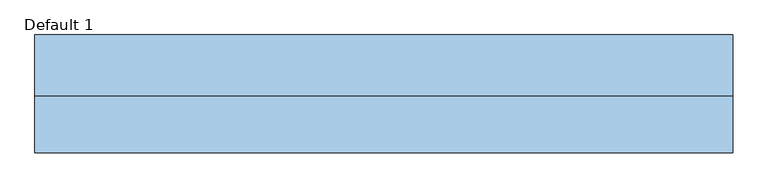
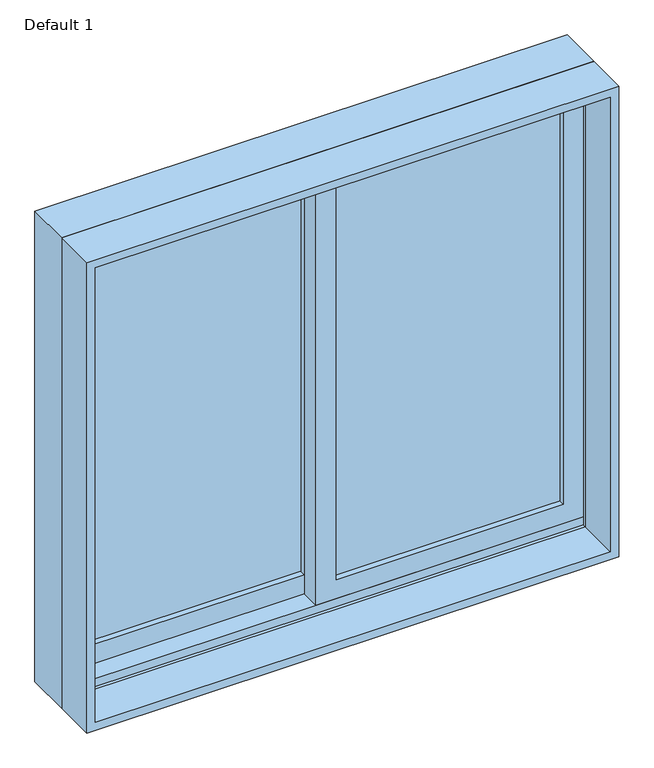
"""IFC4 building model written with IfcOpenShell, lengths in millimetres: window geometry, Planitar-Sliding-Double : Default 1."""

from ifc_helpers import new_model, si_unit, frame, origin, place, context, project, spatial, polyline, outline, extrude, faceted_brep, source, transform, mapped, element, save


def default_1_4d84d3de(model_context):
    return source(origin(), model_context, "Body", "SolidModel", [
        extrude(outline(polyline([(933.45, -565.15), (933.45, 22.225), (1987.55, 22.225), (1987.55, -565.15), (933.45, -565.15)]), holes=[polyline([(1943.1, -22.225), (996.95, -22.225), (996.95, -520.7), (1943.1, -520.7), (1943.1, -22.225)])]), frame((0.0, 53.34, 0.0), z_axis=(0.0, 1.0, 0.0), x_axis=(0.0, 0.0, 1.0)), (0.0, 0.0, 1.0), 44.45),
        extrude(outline(polyline([(952.5, 565.15), (1987.55, 565.15), (1987.55, -22.225), (952.5, -22.225), (952.5, 565.15)]), holes=[polyline([(996.95, 22.225), (1943.1, 22.225), (1943.1, 520.7), (996.95, 520.7), (996.95, 22.225)])]), frame((0.0, 8.89, 0.0), z_axis=(0.0, 1.0, 0.0), x_axis=(0.0, 0.0, 1.0)), (0.0, 0.0, 1.0), 44.45),
        faceted_brep([(-584.2, 2.54, 914.4), (-584.2, 104.14, 914.4), (584.2, 104.14, 914.4), (584.2, 2.54, 914.4), (-543.2778905, 104.14, 1965.6778905), (-543.2778905, 97.79, 1965.6778905), (-543.2778905, 97.79, 933.45), (-543.2778905, 104.14, 933.45), (543.2778905, 97.79, 1965.6778905), (543.2778905, 97.79, 933.45), (565.15, 97.79, 933.45), (565.15, 97.79, 1987.55), (-565.15, 97.79, 1987.55), (-565.15, 97.79, 933.45), (-565.15, 2.54, 1987.55), (-565.15, 2.54, 933.45), (-565.15, 8.89, 933.45), (-565.15, 8.89, 952.5), (-565.15, 53.34, 952.5), (-565.15, 53.34, 933.45), (584.2, 2.54, 2006.6), (-584.2, 2.54, 2006.6), (565.15, 2.54, 1987.55), (565.15, 2.54, 933.45), (-584.2, 104.14, 2006.6), (584.2, 104.14, 2006.6), (543.2778905, 104.14, 933.45), (543.2778905, 104.14, 1965.6778905), (565.15, 53.34, 933.45), (565.15, 53.34, 952.5), (565.15, 8.89, 952.5), (565.15, 8.89, 933.45)], [[[0, 1, 2, 3]], [[4, 5, 6, 7]], [[5, 8, 9, 10, 11, 12, 13, 6]], [[12, 14, 15, 16, 17, 18, 19, 13]], [[0, 3, 20, 21], [22, 23, 15, 14]], [[24, 1, 0, 21]], [[2, 1, 24, 25], [4, 7, 26, 27]], [[5, 4, 27, 8]], [[12, 11, 22, 14]], [[21, 20, 25, 24]], [[8, 27, 26, 9]], [[22, 11, 10, 28, 29, 30, 31, 23]], [[20, 3, 2, 25]], [[26, 7, 6, 13, 19, 28, 10, 9]], [[28, 19, 18, 29]], [[29, 18, 17, 30]], [[30, 17, 16, 31]], [[15, 23, 31, 16]]]),
        extrude(outline(polyline([(2006.6, -584.2), (914.4, -584.2), (914.4, 584.2), (2006.6, 584.2), (2006.6, -584.2)]), holes=[polyline([(1987.55, 565.15), (933.45, 565.15), (933.45, -565.15), (1987.55, -565.15), (1987.55, 565.15)])]), frame((0.0, -92.71, 0.0), z_axis=(0.0, 1.0, 0.0), x_axis=(0.0, 0.0, 1.0)), (0.0, 0.0, 1.0), 95.25),
        extrude(outline(polyline([(520.7, 40.64), (520.7, 34.29), (22.225, 34.29), (22.225, 40.64), (520.7, 40.64)])), frame((0.0, 0.0, 996.95), z_axis=(0.0, 0.0, 1.0), x_axis=(1.0, 0.0, 0.0)), (0.0, 0.0, 1.0), 946.15),
        extrude(outline(polyline([(520.7, 27.94), (520.7, 21.59), (22.225, 21.59), (22.225, 27.94), (520.7, 27.94)])), frame((0.0, 0.0, 996.95), z_axis=(0.0, 0.0, 1.0), x_axis=(1.0, 0.0, 0.0)), (0.0, 0.0, 1.0), 946.15),
        extrude(outline(polyline([(-22.225, 85.09), (-22.225, 78.74), (-520.7, 78.74), (-520.7, 85.09), (-22.225, 85.09)])), frame((0.0, 0.0, 996.95), z_axis=(0.0, 0.0, 1.0), x_axis=(1.0, 0.0, 0.0)), (0.0, 0.0, 1.0), 946.15),
        extrude(outline(polyline([(-22.225, 72.39), (-22.225, 66.04), (-520.7, 66.04), (-520.7, 72.39), (-22.225, 72.39)])), frame((0.0, 0.0, 996.95), z_axis=(0.0, 0.0, 1.0), x_axis=(1.0, 0.0, 0.0)), (0.0, 0.0, 1.0), 946.15),
    ])


if __name__ == "__main__":
    model = new_model("IFC4")
    model_context = context("Model", 3, world=origin())
    ifc_project = project(units=[si_unit("LENGTHUNIT", "METRE", prefix="MILLI")], contexts=[model_context])
    site = spatial("IfcSite", under=ifc_project)
    building = spatial("IfcBuilding", under=site)
    placement = place(None, origin())
    default_1_shape = default_1_4d84d3de(model_context)
    element("IfcWindow", 1, ObjectType="Planitar-Sliding-Double : Default 1", at=placement, inside=building, context=model_context, shape_type="MappedRepresentation", body=[
        mapped(default_1_shape, transform((0.0, 0.0, 0.0), x_axis=(1.0, 0.0, 0.0), y_axis=(0.0, 1.0, 0.0), z_axis=(0.0, 0.0, 1.0))),
    ])
    save(model, "model.ifc")
